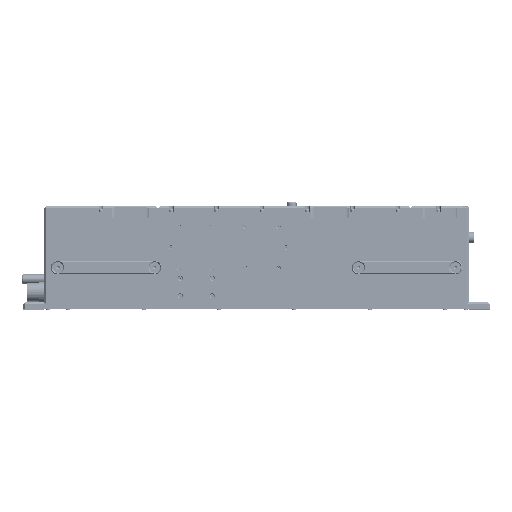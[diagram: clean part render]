
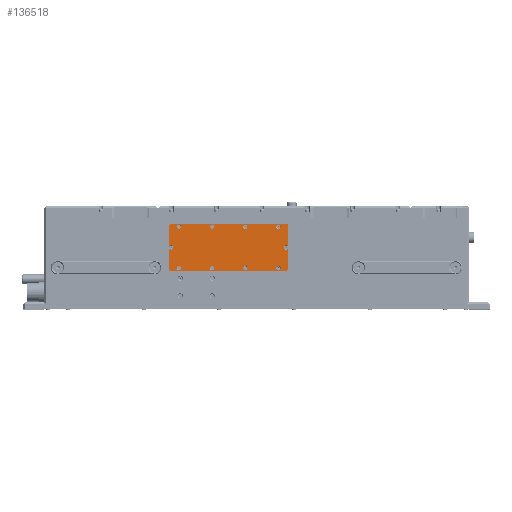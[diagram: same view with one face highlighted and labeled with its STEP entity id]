
A CAD part, top view. The second image highlights one B-rep face of the part: STEP entity #136518.
In plain terms, the highlighted planar face has unit normal (0, 0, 1).
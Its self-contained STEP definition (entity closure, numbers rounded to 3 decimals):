
#16475=FACE_BOUND('',#30205,.T.);
#16476=FACE_BOUND('',#30206,.T.);
#16477=FACE_BOUND('',#30207,.T.);
#16478=FACE_BOUND('',#30208,.T.);
#16479=FACE_BOUND('',#30209,.T.);
#16480=FACE_BOUND('',#30210,.T.);
#16481=FACE_BOUND('',#30211,.T.);
#16482=FACE_BOUND('',#30212,.T.);
#16483=FACE_BOUND('',#30213,.T.);
#16484=FACE_BOUND('',#30214,.T.);
#18964=PLANE('',#148054);
#23048=FACE_OUTER_BOUND('',#30204,.T.);
#30204=EDGE_LOOP('',(#101747,#101748,#101749,#101750,#101751,#101752,#101753,
#101754));
#30205=EDGE_LOOP('',(#101755));
#30206=EDGE_LOOP('',(#101756));
#30207=EDGE_LOOP('',(#101757));
#30208=EDGE_LOOP('',(#101758));
#30209=EDGE_LOOP('',(#101759));
#30210=EDGE_LOOP('',(#101760));
#30211=EDGE_LOOP('',(#101761));
#30212=EDGE_LOOP('',(#101762));
#30213=EDGE_LOOP('',(#101763));
#30214=EDGE_LOOP('',(#101764));
#38376=LINE('',#207976,#49498);
#38380=LINE('',#207988,#49502);
#38384=LINE('',#208000,#49506);
#38388=LINE('',#208011,#49510);
#49498=VECTOR('',#165381,10.);
#49502=VECTOR('',#165393,10.);
#49506=VECTOR('',#165405,10.);
#49510=VECTOR('',#165417,10.);
#61197=CIRCLE('',#147988,4.5);
#61199=CIRCLE('',#147992,4.5);
#61201=CIRCLE('',#147996,4.5);
#61203=CIRCLE('',#148000,4.5);
#61215=CIRCLE('',#148015,3.15);
#61217=CIRCLE('',#148019,3.15);
#61219=CIRCLE('',#148023,3.15);
#61221=CIRCLE('',#148027,3.15);
#61223=CIRCLE('',#148031,3.15);
#61225=CIRCLE('',#148035,3.15);
#61227=CIRCLE('',#148039,3.15);
#61229=CIRCLE('',#148043,3.15);
#61231=CIRCLE('',#148047,3.15);
#61233=CIRCLE('',#148051,3.15);
#69343=VERTEX_POINT('',#207966);
#69344=VERTEX_POINT('',#207967);
#69347=VERTEX_POINT('',#207975);
#69349=VERTEX_POINT('',#207981);
#69351=VERTEX_POINT('',#207987);
#69353=VERTEX_POINT('',#207993);
#69355=VERTEX_POINT('',#207999);
#69357=VERTEX_POINT('',#208005);
#69369=VERTEX_POINT('',#208035);
#69371=VERTEX_POINT('',#208043);
#69373=VERTEX_POINT('',#208051);
#69375=VERTEX_POINT('',#208059);
#69377=VERTEX_POINT('',#208067);
#69379=VERTEX_POINT('',#208075);
#69381=VERTEX_POINT('',#208083);
#69383=VERTEX_POINT('',#208091);
#69385=VERTEX_POINT('',#208099);
#69387=VERTEX_POINT('',#208107);
#81679=EDGE_CURVE('',#69343,#69344,#61197,.T.);
#81683=EDGE_CURVE('',#69347,#69343,#38376,.T.);
#81686=EDGE_CURVE('',#69349,#69347,#61199,.T.);
#81689=EDGE_CURVE('',#69351,#69349,#38380,.T.);
#81692=EDGE_CURVE('',#69353,#69351,#61201,.T.);
#81695=EDGE_CURVE('',#69355,#69353,#38384,.T.);
#81698=EDGE_CURVE('',#69357,#69355,#61203,.T.);
#81701=EDGE_CURVE('',#69344,#69357,#38388,.T.);
#81713=EDGE_CURVE('',#69369,#69369,#61215,.T.);
#81717=EDGE_CURVE('',#69371,#69371,#61217,.T.);
#81721=EDGE_CURVE('',#69373,#69373,#61219,.T.);
#81725=EDGE_CURVE('',#69375,#69375,#61221,.T.);
#81729=EDGE_CURVE('',#69377,#69377,#61223,.T.);
#81733=EDGE_CURVE('',#69379,#69379,#61225,.T.);
#81737=EDGE_CURVE('',#69381,#69381,#61227,.T.);
#81741=EDGE_CURVE('',#69383,#69383,#61229,.T.);
#81745=EDGE_CURVE('',#69385,#69385,#61231,.T.);
#81749=EDGE_CURVE('',#69387,#69387,#61233,.T.);
#101747=ORIENTED_EDGE('',*,*,#81679,.T.);
#101748=ORIENTED_EDGE('',*,*,#81701,.T.);
#101749=ORIENTED_EDGE('',*,*,#81698,.T.);
#101750=ORIENTED_EDGE('',*,*,#81695,.T.);
#101751=ORIENTED_EDGE('',*,*,#81692,.T.);
#101752=ORIENTED_EDGE('',*,*,#81689,.T.);
#101753=ORIENTED_EDGE('',*,*,#81686,.T.);
#101754=ORIENTED_EDGE('',*,*,#81683,.T.);
#101755=ORIENTED_EDGE('',*,*,#81713,.T.);
#101756=ORIENTED_EDGE('',*,*,#81717,.T.);
#101757=ORIENTED_EDGE('',*,*,#81721,.T.);
#101758=ORIENTED_EDGE('',*,*,#81725,.T.);
#101759=ORIENTED_EDGE('',*,*,#81729,.T.);
#101760=ORIENTED_EDGE('',*,*,#81733,.T.);
#101761=ORIENTED_EDGE('',*,*,#81737,.T.);
#101762=ORIENTED_EDGE('',*,*,#81741,.T.);
#101763=ORIENTED_EDGE('',*,*,#81745,.T.);
#101764=ORIENTED_EDGE('',*,*,#81749,.T.);
#136518=ADVANCED_FACE('',(#23048,#16475,#16476,#16477,#16478,#16479,#16480,
#16481,#16482,#16483,#16484),#18964,.T.);
#147988=AXIS2_PLACEMENT_3D('',#207968,#165373,#165374);
#147992=AXIS2_PLACEMENT_3D('',#207982,#165386,#165387);
#147996=AXIS2_PLACEMENT_3D('',#207994,#165398,#165399);
#148000=AXIS2_PLACEMENT_3D('',#208006,#165410,#165411);
#148015=AXIS2_PLACEMENT_3D('',#208036,#165443,#165444);
#148019=AXIS2_PLACEMENT_3D('',#208044,#165453,#165454);
#148023=AXIS2_PLACEMENT_3D('',#208052,#165463,#165464);
#148027=AXIS2_PLACEMENT_3D('',#208060,#165473,#165474);
#148031=AXIS2_PLACEMENT_3D('',#208068,#165483,#165484);
#148035=AXIS2_PLACEMENT_3D('',#208076,#165493,#165494);
#148039=AXIS2_PLACEMENT_3D('',#208084,#165503,#165504);
#148043=AXIS2_PLACEMENT_3D('',#208092,#165513,#165514);
#148047=AXIS2_PLACEMENT_3D('',#208100,#165523,#165524);
#148051=AXIS2_PLACEMENT_3D('',#208108,#165533,#165534);
#148054=AXIS2_PLACEMENT_3D('',#208114,#165541,#165542);
#165373=DIRECTION('center_axis',(0.,0.,1.));
#165374=DIRECTION('ref_axis',(0.,-1.,0.));
#165381=DIRECTION('',(-1.,0.,0.));
#165386=DIRECTION('center_axis',(0.,0.,1.));
#165387=DIRECTION('ref_axis',(-1.,0.,0.));
#165393=DIRECTION('',(0.,1.,0.));
#165398=DIRECTION('center_axis',(0.,0.,1.));
#165399=DIRECTION('ref_axis',(0.,1.,0.));
#165405=DIRECTION('',(1.,0.,0.));
#165410=DIRECTION('center_axis',(0.,0.,1.));
#165411=DIRECTION('ref_axis',(1.,0.,0.));
#165417=DIRECTION('',(0.,-1.,0.));
#165443=DIRECTION('center_axis',(0.,0.,-1.));
#165444=DIRECTION('ref_axis',(1.,0.,0.));
#165453=DIRECTION('center_axis',(0.,0.,-1.));
#165454=DIRECTION('ref_axis',(1.,0.,0.));
#165463=DIRECTION('center_axis',(0.,0.,-1.));
#165464=DIRECTION('ref_axis',(1.,0.,0.));
#165473=DIRECTION('center_axis',(0.,0.,-1.));
#165474=DIRECTION('ref_axis',(1.,0.,0.));
#165483=DIRECTION('center_axis',(0.,0.,-1.));
#165484=DIRECTION('ref_axis',(1.,0.,0.));
#165493=DIRECTION('center_axis',(0.,0.,-1.));
#165494=DIRECTION('ref_axis',(1.,0.,0.));
#165503=DIRECTION('center_axis',(0.,0.,-1.));
#165504=DIRECTION('ref_axis',(1.,0.,0.));
#165513=DIRECTION('center_axis',(0.,0.,-1.));
#165514=DIRECTION('ref_axis',(1.,0.,0.));
#165523=DIRECTION('center_axis',(0.,0.,-1.));
#165524=DIRECTION('ref_axis',(1.,0.,0.));
#165533=DIRECTION('center_axis',(0.,0.,-1.));
#165534=DIRECTION('ref_axis',(1.,0.,0.));
#165541=DIRECTION('center_axis',(0.,0.,1.));
#165542=DIRECTION('ref_axis',(1.,0.,0.));
#207966=CARTESIAN_POINT('',(-82.,34.5,5.));
#207967=CARTESIAN_POINT('',(-86.5,30.,5.));
#207968=CARTESIAN_POINT('Origin',(-82.,30.,5.));
#207975=CARTESIAN_POINT('',(82.,34.5,5.));
#207976=CARTESIAN_POINT('',(41.,34.5,5.));
#207981=CARTESIAN_POINT('',(86.5,30.,5.));
#207982=CARTESIAN_POINT('Origin',(82.,30.,5.));
#207987=CARTESIAN_POINT('',(86.5,-30.,5.));
#207988=CARTESIAN_POINT('',(86.5,-15.,5.));
#207993=CARTESIAN_POINT('',(82.,-34.5,5.));
#207994=CARTESIAN_POINT('Origin',(82.,-30.,5.));
#207999=CARTESIAN_POINT('',(-82.,-34.5,5.));
#208000=CARTESIAN_POINT('',(-41.,-34.5,5.));
#208005=CARTESIAN_POINT('',(-86.5,-30.,5.));
#208006=CARTESIAN_POINT('Origin',(-82.,-30.,5.));
#208011=CARTESIAN_POINT('',(-86.5,15.,5.));
#208035=CARTESIAN_POINT('',(20.85,-30.,5.));
#208036=CARTESIAN_POINT('Origin',(24.,-30.,5.));
#208043=CARTESIAN_POINT('',(-75.15,-30.,5.));
#208044=CARTESIAN_POINT('Origin',(-72.,-30.,5.));
#208051=CARTESIAN_POINT('',(20.85,30.,5.));
#208052=CARTESIAN_POINT('Origin',(24.,30.,5.));
#208059=CARTESIAN_POINT('',(-75.15,30.,5.));
#208060=CARTESIAN_POINT('Origin',(-72.,30.,5.));
#208067=CARTESIAN_POINT('',(-86.15,0.,5.));
#208068=CARTESIAN_POINT('Origin',(-83.,0.,5.));
#208075=CARTESIAN_POINT('',(79.85,0.,5.));
#208076=CARTESIAN_POINT('Origin',(83.,0.,5.));
#208083=CARTESIAN_POINT('',(68.85,30.,5.));
#208084=CARTESIAN_POINT('Origin',(72.,30.,5.));
#208091=CARTESIAN_POINT('',(-27.15,30.,5.));
#208092=CARTESIAN_POINT('Origin',(-24.,30.,5.));
#208099=CARTESIAN_POINT('',(-27.15,-30.,5.));
#208100=CARTESIAN_POINT('Origin',(-24.,-30.,5.));
#208107=CARTESIAN_POINT('',(68.85,-30.,5.));
#208108=CARTESIAN_POINT('Origin',(72.,-30.,5.));
#208114=CARTESIAN_POINT('Origin',(0.,0.,
5.));
